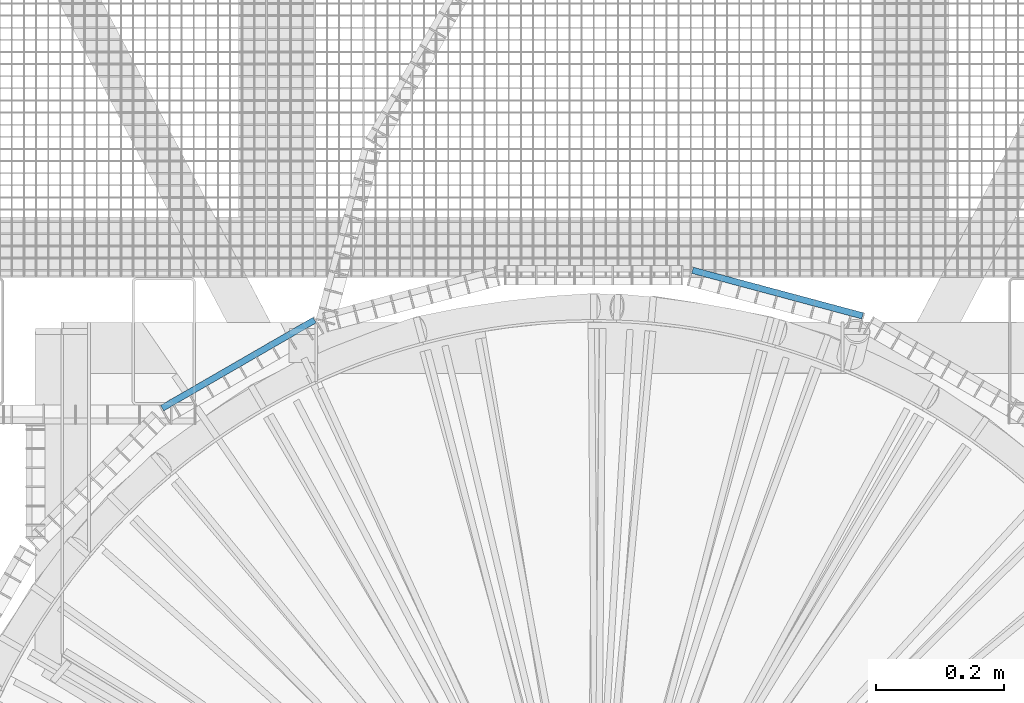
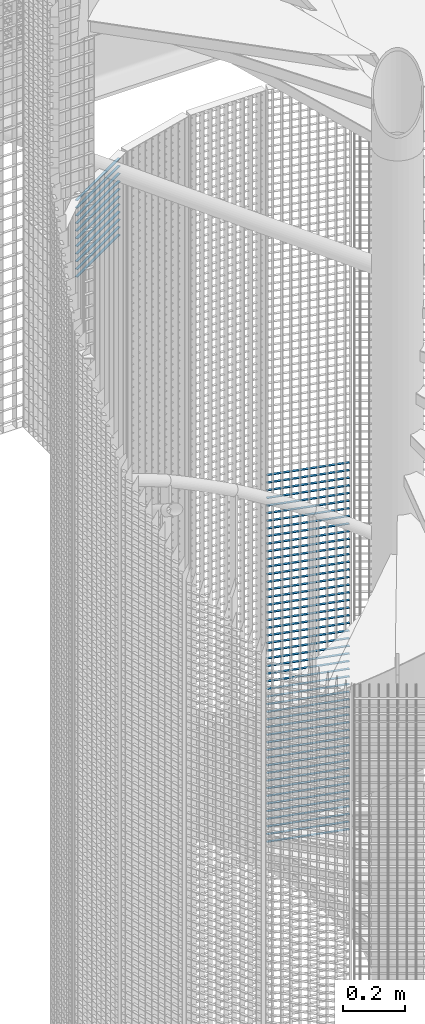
# One storey, part 307 of 1148: 60 beams, 2 elements without a shape of their own.
"""IFC2X3 building model written with IfcOpenShell, lengths in millimetres."""

from ifc_helpers import new_model, si_unit, frame, origin_with_axes, origin_2d_with_axis, place, context, subcontext, project, spatial, rectangle, extrude, material, type_object, element, aggregate, save


model = new_model("IFC2X3")

# Units and contexts
model_context = context("Model", 3, precision=1e-05, world=origin_with_axes())
body_context = subcontext(model_context, "Body", "Model", "MODEL_VIEW")
ifc_project = project(units=[si_unit("LENGTHUNIT", "METRE", prefix="MILLI"), si_unit("AREAUNIT", "SQUARE_METRE"), si_unit("VOLUMEUNIT", "CUBIC_METRE"), si_unit("MASSUNIT", "GRAM", prefix="KILO"), si_unit("TIMEUNIT", "SECOND"), si_unit("PLANEANGLEUNIT", "RADIAN"), si_unit("SOLIDANGLEUNIT", "STERADIAN"), si_unit("THERMODYNAMICTEMPERATUREUNIT", "DEGREE_CELSIUS"), si_unit("LUMINOUSINTENSITYUNIT", "LUMEN")], contexts=[model_context])

# Site, building, storey
site_placement = place(None, origin_with_axes())
site = spatial("IfcSite", under=ifc_project, at=site_placement, Name="Undefined", CompositionType="ELEMENT")
building_placement = place(site_placement, origin_with_axes())
building = spatial("IfcBuilding", under=site, at=building_placement, Name="Undefined", CompositionType="ELEMENT")
storey_placement = place(building_placement, origin_with_axes())
storey = spatial("IfcBuildingStorey", under=building, at=storey_placement, Name="Undefined", CompositionType="ELEMENT", Elevation=0.0)

# Assembly, beams
assembly_1_placement = place(storey_placement, origin_with_axes())
assembly_1 = element("IfcElementAssembly", 1, at=assembly_1_placement, inside=storey, Name="BORDURE", AssemblyPlace="NOTDEFINED", PredefinedType="NOTDEFINED")
ifc_material = material(Name="STEEL/S235JR")
beam_type = type_object("IfcBeamType", Name="PL2*10", PredefinedType="NOTDEFINED")
beam_1_placement = place(assembly_1_placement, frame((421.483733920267, 1039.82309522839, 4470.0), z_axis=(0.258819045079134, 0.965925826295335, 0.0), x_axis=(-0.965925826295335, 0.258819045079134, 0.0)))
beam_1 = element("IfcBeam", 2, at=beam_1_placement, type_object=beam_type, material=ifc_material, Name="ENTRETOISE", context=body_context, shape_type="SweptSolid", body=[
    extrude(rectangle(XDim=2.0, YDim=10.0, at=origin_2d_with_axis()), frame((275.999999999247, 9.09494701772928e-13, 1.53210777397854e-14), z_axis=(-1.0, 0.0, 0.0), x_axis=(0.0, -1.0, 0.0)), (0.0, 0.0, 1.0), 276.0),
])
beam_2_placement = place(assembly_1_placement, frame((421.483733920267, 1039.82309522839, 4440.0), z_axis=(0.258819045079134, 0.965925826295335, 0.0), x_axis=(-0.965925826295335, 0.258819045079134, 0.0)))
beam_2 = element("IfcBeam", 3, at=beam_2_placement, type_object=beam_type, material=ifc_material, Name="ENTRETOISE", context=body_context, shape_type="SweptSolid", body=[
    extrude(rectangle(XDim=2.0, YDim=10.0, at=origin_2d_with_axis()), frame((275.999999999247, 9.09494701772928e-13, 1.53210777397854e-14), z_axis=(-1.0, 0.0, 0.0), x_axis=(0.0, -1.0, 0.0)), (0.0, 0.0, 1.0), 276.0),
])
beam_3_placement = place(assembly_1_placement, frame((421.483733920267, 1039.82309522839, 4410.0), z_axis=(0.258819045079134, 0.965925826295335, 0.0), x_axis=(-0.965925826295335, 0.258819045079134, 0.0)))
beam_3 = element("IfcBeam", 4, at=beam_3_placement, type_object=beam_type, material=ifc_material, Name="ENTRETOISE", context=body_context, shape_type="SweptSolid", body=[
    extrude(rectangle(XDim=2.0, YDim=10.0, at=origin_2d_with_axis()), frame((275.999999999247, 9.09494701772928e-13, 1.53210777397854e-14), z_axis=(-1.0, 0.0, 0.0), x_axis=(0.0, -1.0, 0.0)), (0.0, 0.0, 1.0), 276.0),
])
beam_4_placement = place(assembly_1_placement, frame((421.483733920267, 1039.82309522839, 4380.0), z_axis=(0.258819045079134, 0.965925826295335, 0.0), x_axis=(-0.965925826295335, 0.258819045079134, 0.0)))
beam_4 = element("IfcBeam", 5, at=beam_4_placement, type_object=beam_type, material=ifc_material, Name="ENTRETOISE", context=body_context, shape_type="SweptSolid", body=[
    extrude(rectangle(XDim=2.0, YDim=10.0, at=origin_2d_with_axis()), frame((275.999999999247, 9.09494701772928e-13, 1.53210777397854e-14), z_axis=(-1.0, 0.0, 0.0), x_axis=(0.0, -1.0, 0.0)), (0.0, 0.0, 1.0), 276.0),
])
beam_5_placement = place(assembly_1_placement, frame((421.483733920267, 1039.82309522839, 4350.0), z_axis=(0.258819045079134, 0.965925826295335, 0.0), x_axis=(-0.965925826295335, 0.258819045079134, 0.0)))
beam_5 = element("IfcBeam", 6, at=beam_5_placement, type_object=beam_type, material=ifc_material, Name="ENTRETOISE", context=body_context, shape_type="SweptSolid", body=[
    extrude(rectangle(XDim=2.0, YDim=10.0, at=origin_2d_with_axis()), frame((275.999999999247, 9.09494701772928e-13, 1.53210777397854e-14), z_axis=(-1.0, 0.0, 0.0), x_axis=(0.0, -1.0, 0.0)), (0.0, 0.0, 1.0), 276.0),
])
beam_6_placement = place(assembly_1_placement, frame((421.483733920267, 1039.82309522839, 4320.0), z_axis=(0.258819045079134, 0.965925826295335, 0.0), x_axis=(-0.965925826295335, 0.258819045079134, 0.0)))
beam_6 = element("IfcBeam", 7, at=beam_6_placement, type_object=beam_type, material=ifc_material, Name="ENTRETOISE", context=body_context, shape_type="SweptSolid", body=[
    extrude(rectangle(XDim=2.0, YDim=10.0, at=origin_2d_with_axis()), frame((275.999999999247, 9.09494701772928e-13, 1.53210777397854e-14), z_axis=(-1.0, 0.0, 0.0), x_axis=(0.0, -1.0, 0.0)), (0.0, 0.0, 1.0), 276.0),
])
beam_7_placement = place(assembly_1_placement, frame((421.483733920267, 1039.82309522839, 4290.0), z_axis=(0.258819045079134, 0.965925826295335, 0.0), x_axis=(-0.965925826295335, 0.258819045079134, 0.0)))
beam_7 = element("IfcBeam", 8, at=beam_7_placement, type_object=beam_type, material=ifc_material, Name="ENTRETOISE", context=body_context, shape_type="SweptSolid", body=[
    extrude(rectangle(XDim=2.0, YDim=10.0, at=origin_2d_with_axis()), frame((275.999999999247, 9.09494701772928e-13, 1.53210777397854e-14), z_axis=(-1.0, 0.0, 0.0), x_axis=(0.0, -1.0, 0.0)), (0.0, 0.0, 1.0), 276.0),
])
beam_8_placement = place(assembly_1_placement, frame((421.483733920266, 1039.82309522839, 4260.0), z_axis=(0.258819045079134, 0.965925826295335, 0.0), x_axis=(-0.965925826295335, 0.258819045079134, 0.0)))
beam_8 = element("IfcBeam", 9, at=beam_8_placement, type_object=beam_type, material=ifc_material, Name="ENTRETOISE", context=body_context, shape_type="SweptSolid", body=[
    extrude(rectangle(XDim=2.0, YDim=10.0, at=origin_2d_with_axis()), frame((275.999999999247, 9.09494701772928e-13, 1.53210777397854e-14), z_axis=(-1.0, 0.0, 0.0), x_axis=(0.0, -1.0, 0.0)), (0.0, 0.0, 1.0), 276.0),
])
beam_9_placement = place(assembly_1_placement, frame((421.483733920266, 1039.82309522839, 4230.0), z_axis=(0.258819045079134, 0.965925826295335, 0.0), x_axis=(-0.965925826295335, 0.258819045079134, 0.0)))
beam_9 = element("IfcBeam", 10, at=beam_9_placement, type_object=beam_type, material=ifc_material, Name="ENTRETOISE", context=body_context, shape_type="SweptSolid", body=[
    extrude(rectangle(XDim=2.0, YDim=10.0, at=origin_2d_with_axis()), frame((275.999999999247, 9.09494701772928e-13, 1.53210777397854e-14), z_axis=(-1.0, 0.0, 0.0), x_axis=(0.0, -1.0, 0.0)), (0.0, 0.0, 1.0), 276.0),
])
beam_10_placement = place(assembly_1_placement, frame((421.483733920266, 1039.82309522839, 4200.0), z_axis=(0.258819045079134, 0.965925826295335, 0.0), x_axis=(-0.965925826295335, 0.258819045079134, 0.0)))
beam_10 = element("IfcBeam", 11, at=beam_10_placement, type_object=beam_type, material=ifc_material, Name="ENTRETOISE", context=body_context, shape_type="SweptSolid", body=[
    extrude(rectangle(XDim=2.0, YDim=10.0, at=origin_2d_with_axis()), frame((275.999999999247, 9.09494701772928e-13, 1.53210777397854e-14), z_axis=(-1.0, 0.0, 0.0), x_axis=(0.0, -1.0, 0.0)), (0.0, 0.0, 1.0), 276.0),
])
beam_11_placement = place(assembly_1_placement, frame((421.483733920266, 1039.82309522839, 4170.0), z_axis=(0.258819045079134, 0.965925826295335, 0.0), x_axis=(-0.965925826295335, 0.258819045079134, 0.0)))
beam_11 = element("IfcBeam", 12, at=beam_11_placement, type_object=beam_type, material=ifc_material, Name="ENTRETOISE", context=body_context, shape_type="SweptSolid", body=[
    extrude(rectangle(XDim=2.0, YDim=10.0, at=origin_2d_with_axis()), frame((275.999999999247, 9.09494701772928e-13, 1.53210777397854e-14), z_axis=(-1.0, 0.0, 0.0), x_axis=(0.0, -1.0, 0.0)), (0.0, 0.0, 1.0), 276.0),
])
beam_12_placement = place(assembly_1_placement, frame((421.483733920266, 1039.82309522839, 4140.0), z_axis=(0.258819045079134, 0.965925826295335, 0.0), x_axis=(-0.965925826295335, 0.258819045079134, 0.0)))
beam_12 = element("IfcBeam", 13, at=beam_12_placement, type_object=beam_type, material=ifc_material, Name="ENTRETOISE", context=body_context, shape_type="SweptSolid", body=[
    extrude(rectangle(XDim=2.0, YDim=10.0, at=origin_2d_with_axis()), frame((275.999999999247, 9.09494701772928e-13, 1.53210777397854e-14), z_axis=(-1.0, 0.0, 0.0), x_axis=(0.0, -1.0, 0.0)), (0.0, 0.0, 1.0), 276.0),
])
beam_13_placement = place(assembly_1_placement, frame((421.483733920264, 1039.82309522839, 3720.0), z_axis=(0.258819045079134, 0.965925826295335, 0.0), x_axis=(-0.965925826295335, 0.258819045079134, 0.0)))
beam_13 = element("IfcBeam", 14, at=beam_13_placement, type_object=beam_type, material=ifc_material, Name="ENTRETOISE", context=body_context, shape_type="SweptSolid", body=[
    extrude(rectangle(XDim=2.0, YDim=10.0, at=origin_2d_with_axis()), frame((275.999999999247, 9.09494701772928e-13, 1.53210777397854e-14), z_axis=(-1.0, 0.0, 0.0), x_axis=(0.0, -1.0, 0.0)), (0.0, 0.0, 1.0), 276.0),
])
beam_14_placement = place(assembly_1_placement, frame((421.483733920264, 1039.82309522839, 3690.0), z_axis=(0.258819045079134, 0.965925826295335, 0.0), x_axis=(-0.965925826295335, 0.258819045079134, 0.0)))
beam_14 = element("IfcBeam", 15, at=beam_14_placement, type_object=beam_type, material=ifc_material, Name="ENTRETOISE", context=body_context, shape_type="SweptSolid", body=[
    extrude(rectangle(XDim=2.0, YDim=10.0, at=origin_2d_with_axis()), frame((275.999999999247, 9.09494701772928e-13, 1.53210777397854e-14), z_axis=(-1.0, 0.0, 0.0), x_axis=(0.0, -1.0, 0.0)), (0.0, 0.0, 1.0), 276.0),
])
beam_15_placement = place(assembly_1_placement, frame((421.483733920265, 1039.82309522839, 3750.0), z_axis=(0.258819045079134, 0.965925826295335, 0.0), x_axis=(-0.965925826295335, 0.258819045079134, 0.0)))
beam_15 = element("IfcBeam", 16, at=beam_15_placement, type_object=beam_type, material=ifc_material, Name="ENTRETOISE", context=body_context, shape_type="SweptSolid", body=[
    extrude(rectangle(XDim=2.0, YDim=10.0, at=origin_2d_with_axis()), frame((275.999999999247, 9.09494701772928e-13, 1.53210777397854e-14), z_axis=(-1.0, 0.0, 0.0), x_axis=(0.0, -1.0, 0.0)), (0.0, 0.0, 1.0), 276.0),
])
beam_16_placement = place(assembly_1_placement, frame((421.483733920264, 1039.82309522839, 3660.0), z_axis=(0.258819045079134, 0.965925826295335, 0.0), x_axis=(-0.965925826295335, 0.258819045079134, 0.0)))
beam_16 = element("IfcBeam", 17, at=beam_16_placement, type_object=beam_type, material=ifc_material, Name="ENTRETOISE", context=body_context, shape_type="SweptSolid", body=[
    extrude(rectangle(XDim=2.0, YDim=10.0, at=origin_2d_with_axis()), frame((275.999999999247, 9.09494701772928e-13, 1.53210777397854e-14), z_axis=(-1.0, 0.0, 0.0), x_axis=(0.0, -1.0, 0.0)), (0.0, 0.0, 1.0), 276.0),
])
beam_17_placement = place(assembly_1_placement, frame((421.483733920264, 1039.82309522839, 3630.0), z_axis=(0.258819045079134, 0.965925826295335, 0.0), x_axis=(-0.965925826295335, 0.258819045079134, 0.0)))
beam_17 = element("IfcBeam", 18, at=beam_17_placement, type_object=beam_type, material=ifc_material, Name="ENTRETOISE", context=body_context, shape_type="SweptSolid", body=[
    extrude(rectangle(XDim=2.0, YDim=10.0, at=origin_2d_with_axis()), frame((275.999999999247, 9.09494701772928e-13, 1.53210777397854e-14), z_axis=(-1.0, 0.0, 0.0), x_axis=(0.0, -1.0, 0.0)), (0.0, 0.0, 1.0), 276.0),
])
beam_18_placement = place(assembly_1_placement, frame((421.483733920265, 1039.82309522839, 3780.0), z_axis=(0.258819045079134, 0.965925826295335, 0.0), x_axis=(-0.965925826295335, 0.258819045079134, 0.0)))
beam_18 = element("IfcBeam", 19, at=beam_18_placement, type_object=beam_type, material=ifc_material, Name="ENTRETOISE", context=body_context, shape_type="SweptSolid", body=[
    extrude(rectangle(XDim=2.0, YDim=10.0, at=origin_2d_with_axis()), frame((275.999999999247, 9.09494701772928e-13, 1.53210777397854e-14), z_axis=(-1.0, 0.0, 0.0), x_axis=(0.0, -1.0, 0.0)), (0.0, 0.0, 1.0), 276.0),
])
beam_19_placement = place(assembly_1_placement, frame((421.483733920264, 1039.82309522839, 3600.0), z_axis=(0.258819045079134, 0.965925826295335, 0.0), x_axis=(-0.965925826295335, 0.258819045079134, 0.0)))
beam_19 = element("IfcBeam", 20, at=beam_19_placement, type_object=beam_type, material=ifc_material, Name="ENTRETOISE", context=body_context, shape_type="SweptSolid", body=[
    extrude(rectangle(XDim=2.0, YDim=10.0, at=origin_2d_with_axis()), frame((275.999999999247, 9.09494701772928e-13, 1.53210777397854e-14), z_axis=(-1.0, 0.0, 0.0), x_axis=(0.0, -1.0, 0.0)), (0.0, 0.0, 1.0), 276.0),
])
beam_20_placement = place(assembly_1_placement, frame((421.483733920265, 1039.82309522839, 3810.0), z_axis=(0.258819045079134, 0.965925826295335, 0.0), x_axis=(-0.965925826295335, 0.258819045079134, 0.0)))
beam_20 = element("IfcBeam", 21, at=beam_20_placement, type_object=beam_type, material=ifc_material, Name="ENTRETOISE", context=body_context, shape_type="SweptSolid", body=[
    extrude(rectangle(XDim=2.0, YDim=10.0, at=origin_2d_with_axis()), frame((275.999999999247, 9.09494701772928e-13, 1.53210777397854e-14), z_axis=(-1.0, 0.0, 0.0), x_axis=(0.0, -1.0, 0.0)), (0.0, 0.0, 1.0), 276.0),
])
beam_21_placement = place(assembly_1_placement, frame((421.483733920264, 1039.82309522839, 3570.0), z_axis=(0.258819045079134, 0.965925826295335, 0.0), x_axis=(-0.965925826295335, 0.258819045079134, 0.0)))
beam_21 = element("IfcBeam", 22, at=beam_21_placement, type_object=beam_type, material=ifc_material, Name="ENTRETOISE", context=body_context, shape_type="SweptSolid", body=[
    extrude(rectangle(XDim=2.0, YDim=10.0, at=origin_2d_with_axis()), frame((275.999999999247, 9.09494701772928e-13, 1.53210777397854e-14), z_axis=(-1.0, 0.0, 0.0), x_axis=(0.0, -1.0, 0.0)), (0.0, 0.0, 1.0), 276.0),
])
beam_22_placement = place(assembly_1_placement, frame((421.483733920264, 1039.82309522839, 3540.0), z_axis=(0.258819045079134, 0.965925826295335, 0.0), x_axis=(-0.965925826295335, 0.258819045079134, 0.0)))
beam_22 = element("IfcBeam", 23, at=beam_22_placement, type_object=beam_type, material=ifc_material, Name="ENTRETOISE", context=body_context, shape_type="SweptSolid", body=[
    extrude(rectangle(XDim=2.0, YDim=10.0, at=origin_2d_with_axis()), frame((275.999999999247, 9.09494701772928e-13, 1.53210777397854e-14), z_axis=(-1.0, 0.0, 0.0), x_axis=(0.0, -1.0, 0.0)), (0.0, 0.0, 1.0), 276.0),
])
beam_23_placement = place(assembly_1_placement, frame((421.483733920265, 1039.82309522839, 3840.0), z_axis=(0.258819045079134, 0.965925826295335, 0.0), x_axis=(-0.965925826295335, 0.258819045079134, 0.0)))
beam_23 = element("IfcBeam", 24, at=beam_23_placement, type_object=beam_type, material=ifc_material, Name="ENTRETOISE", context=body_context, shape_type="SweptSolid", body=[
    extrude(rectangle(XDim=2.0, YDim=10.0, at=origin_2d_with_axis()), frame((275.999999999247, 9.09494701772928e-13, 1.53210777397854e-14), z_axis=(-1.0, 0.0, 0.0), x_axis=(0.0, -1.0, 0.0)), (0.0, 0.0, 1.0), 276.0),
])
beam_24_placement = place(assembly_1_placement, frame((421.483733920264, 1039.82309522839, 3510.0), z_axis=(0.258819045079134, 0.965925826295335, 0.0), x_axis=(-0.965925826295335, 0.258819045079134, 0.0)))
beam_24 = element("IfcBeam", 25, at=beam_24_placement, type_object=beam_type, material=ifc_material, Name="ENTRETOISE", context=body_context, shape_type="SweptSolid", body=[
    extrude(rectangle(XDim=2.0, YDim=10.0, at=origin_2d_with_axis()), frame((275.999999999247, 9.09494701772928e-13, 1.53210777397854e-14), z_axis=(-1.0, 0.0, 0.0), x_axis=(0.0, -1.0, 0.0)), (0.0, 0.0, 1.0), 276.0),
])
beam_25_placement = place(assembly_1_placement, frame((421.483733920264, 1039.82309522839, 3480.0), z_axis=(0.258819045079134, 0.965925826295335, 0.0), x_axis=(-0.965925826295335, 0.258819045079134, 0.0)))
beam_25 = element("IfcBeam", 26, at=beam_25_placement, type_object=beam_type, material=ifc_material, Name="ENTRETOISE", context=body_context, shape_type="SweptSolid", body=[
    extrude(rectangle(XDim=2.0, YDim=10.0, at=origin_2d_with_axis()), frame((275.999999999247, 9.09494701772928e-13, 1.53210777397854e-14), z_axis=(-1.0, 0.0, 0.0), x_axis=(0.0, -1.0, 0.0)), (0.0, 0.0, 1.0), 276.0),
])
beam_26_placement = place(assembly_1_placement, frame((421.483733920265, 1039.82309522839, 3870.0), z_axis=(0.258819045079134, 0.965925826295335, 0.0), x_axis=(-0.965925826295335, 0.258819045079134, 0.0)))
beam_26 = element("IfcBeam", 27, at=beam_26_placement, type_object=beam_type, material=ifc_material, Name="ENTRETOISE", context=body_context, shape_type="SweptSolid", body=[
    extrude(rectangle(XDim=2.0, YDim=10.0, at=origin_2d_with_axis()), frame((275.999999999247, 9.09494701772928e-13, 1.53210777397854e-14), z_axis=(-1.0, 0.0, 0.0), x_axis=(0.0, -1.0, 0.0)), (0.0, 0.0, 1.0), 276.0),
])
beam_27_placement = place(assembly_1_placement, frame((421.483733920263, 1039.82309522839, 3450.0), z_axis=(0.258819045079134, 0.965925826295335, 0.0), x_axis=(-0.965925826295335, 0.258819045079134, 0.0)))
beam_27 = element("IfcBeam", 28, at=beam_27_placement, type_object=beam_type, material=ifc_material, Name="ENTRETOISE", context=body_context, shape_type="SweptSolid", body=[
    extrude(rectangle(XDim=2.0, YDim=10.0, at=origin_2d_with_axis()), frame((275.999999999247, 9.09494701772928e-13, 1.53210777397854e-14), z_axis=(-1.0, 0.0, 0.0), x_axis=(0.0, -1.0, 0.0)), (0.0, 0.0, 1.0), 276.0),
])
beam_28_placement = place(assembly_1_placement, frame((421.483733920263, 1039.82309522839, 3420.0), z_axis=(0.258819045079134, 0.965925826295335, 0.0), x_axis=(-0.965925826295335, 0.258819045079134, 0.0)))
beam_28 = element("IfcBeam", 29, at=beam_28_placement, type_object=beam_type, material=ifc_material, Name="ENTRETOISE", context=body_context, shape_type="SweptSolid", body=[
    extrude(rectangle(XDim=2.0, YDim=10.0, at=origin_2d_with_axis()), frame((275.999999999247, 9.09494701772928e-13, 1.53210777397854e-14), z_axis=(-1.0, 0.0, 0.0), x_axis=(0.0, -1.0, 0.0)), (0.0, 0.0, 1.0), 276.0),
])
beam_29_placement = place(assembly_1_placement, frame((421.483733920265, 1039.82309522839, 3900.0), z_axis=(0.258819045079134, 0.965925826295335, 0.0), x_axis=(-0.965925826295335, 0.258819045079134, 0.0)))
beam_29 = element("IfcBeam", 30, at=beam_29_placement, type_object=beam_type, material=ifc_material, Name="ENTRETOISE", context=body_context, shape_type="SweptSolid", body=[
    extrude(rectangle(XDim=2.0, YDim=10.0, at=origin_2d_with_axis()), frame((275.999999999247, 9.09494701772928e-13, 1.53210777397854e-14), z_axis=(-1.0, 0.0, 0.0), x_axis=(0.0, -1.0, 0.0)), (0.0, 0.0, 1.0), 276.0),
])
beam_30_placement = place(assembly_1_placement, frame((421.483733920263, 1039.82309522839, 3390.0), z_axis=(0.258819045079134, 0.965925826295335, 0.0), x_axis=(-0.965925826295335, 0.258819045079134, 0.0)))
beam_30 = element("IfcBeam", 31, at=beam_30_placement, type_object=beam_type, material=ifc_material, Name="ENTRETOISE", context=body_context, shape_type="SweptSolid", body=[
    extrude(rectangle(XDim=2.0, YDim=10.0, at=origin_2d_with_axis()), frame((275.999999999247, 9.09494701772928e-13, 1.53210777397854e-14), z_axis=(-1.0, 0.0, 0.0), x_axis=(0.0, -1.0, 0.0)), (0.0, 0.0, 1.0), 276.0),
])
beam_31_placement = place(assembly_1_placement, frame((421.483733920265, 1039.82309522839, 3930.0), z_axis=(0.258819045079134, 0.965925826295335, 0.0), x_axis=(-0.965925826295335, 0.258819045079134, 0.0)))
beam_31 = element("IfcBeam", 32, at=beam_31_placement, type_object=beam_type, material=ifc_material, Name="ENTRETOISE", context=body_context, shape_type="SweptSolid", body=[
    extrude(rectangle(XDim=2.0, YDim=10.0, at=origin_2d_with_axis()), frame((275.999999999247, 9.09494701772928e-13, 1.53210777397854e-14), z_axis=(-1.0, 0.0, 0.0), x_axis=(0.0, -1.0, 0.0)), (0.0, 0.0, 1.0), 276.0),
])
beam_32_placement = place(assembly_1_placement, frame((421.483733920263, 1039.82309522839, 3360.0), z_axis=(0.258819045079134, 0.965925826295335, 0.0), x_axis=(-0.965925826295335, 0.258819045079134, 0.0)))
beam_32 = element("IfcBeam", 33, at=beam_32_placement, type_object=beam_type, material=ifc_material, Name="ENTRETOISE", context=body_context, shape_type="SweptSolid", body=[
    extrude(rectangle(XDim=2.0, YDim=10.0, at=origin_2d_with_axis()), frame((275.999999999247, 9.09494701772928e-13, 1.53210777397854e-14), z_axis=(-1.0, 0.0, 0.0), x_axis=(0.0, -1.0, 0.0)), (0.0, 0.0, 1.0), 276.0),
])
beam_33_placement = place(assembly_1_placement, frame((421.483733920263, 1039.82309522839, 3330.0), z_axis=(0.258819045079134, 0.965925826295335, 0.0), x_axis=(-0.965925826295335, 0.258819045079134, 0.0)))
beam_33 = element("IfcBeam", 34, at=beam_33_placement, type_object=beam_type, material=ifc_material, Name="ENTRETOISE", context=body_context, shape_type="SweptSolid", body=[
    extrude(rectangle(XDim=2.0, YDim=10.0, at=origin_2d_with_axis()), frame((275.999999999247, 9.09494701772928e-13, 1.53210777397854e-14), z_axis=(-1.0, 0.0, 0.0), x_axis=(0.0, -1.0, 0.0)), (0.0, 0.0, 1.0), 276.0),
])
beam_34_placement = place(assembly_1_placement, frame((421.483733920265, 1039.82309522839, 3960.0), z_axis=(0.258819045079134, 0.965925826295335, 0.0), x_axis=(-0.965925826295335, 0.258819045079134, 0.0)))
beam_34 = element("IfcBeam", 35, at=beam_34_placement, type_object=beam_type, material=ifc_material, Name="ENTRETOISE", context=body_context, shape_type="SweptSolid", body=[
    extrude(rectangle(XDim=2.0, YDim=10.0, at=origin_2d_with_axis()), frame((275.999999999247, 9.09494701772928e-13, 1.53210777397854e-14), z_axis=(-1.0, 0.0, 0.0), x_axis=(0.0, -1.0, 0.0)), (0.0, 0.0, 1.0), 276.0),
])
beam_35_placement = place(assembly_1_placement, frame((421.483733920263, 1039.82309522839, 3300.0), z_axis=(0.258819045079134, 0.965925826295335, 0.0), x_axis=(-0.965925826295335, 0.258819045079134, 0.0)))
beam_35 = element("IfcBeam", 36, at=beam_35_placement, type_object=beam_type, material=ifc_material, Name="ENTRETOISE", context=body_context, shape_type="SweptSolid", body=[
    extrude(rectangle(XDim=2.0, YDim=10.0, at=origin_2d_with_axis()), frame((275.999999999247, 9.09494701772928e-13, 1.53210777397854e-14), z_axis=(-1.0, 0.0, 0.0), x_axis=(0.0, -1.0, 0.0)), (0.0, 0.0, 1.0), 276.0),
])
beam_36_placement = place(assembly_1_placement, frame((421.483733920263, 1039.82309522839, 3270.0), z_axis=(0.258819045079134, 0.965925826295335, 0.0), x_axis=(-0.965925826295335, 0.258819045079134, 0.0)))
beam_36 = element("IfcBeam", 37, at=beam_36_placement, type_object=beam_type, material=ifc_material, Name="ENTRETOISE", context=body_context, shape_type="SweptSolid", body=[
    extrude(rectangle(XDim=2.0, YDim=10.0, at=origin_2d_with_axis()), frame((275.999999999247, 9.09494701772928e-13, 1.53210777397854e-14), z_axis=(-1.0, 0.0, 0.0), x_axis=(0.0, -1.0, 0.0)), (0.0, 0.0, 1.0), 276.0),
])
beam_37_placement = place(assembly_1_placement, frame((421.483733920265, 1039.82309522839, 3990.0), z_axis=(0.258819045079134, 0.965925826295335, 0.0), x_axis=(-0.965925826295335, 0.258819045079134, 0.0)))
beam_37 = element("IfcBeam", 38, at=beam_37_placement, type_object=beam_type, material=ifc_material, Name="ENTRETOISE", context=body_context, shape_type="SweptSolid", body=[
    extrude(rectangle(XDim=2.0, YDim=10.0, at=origin_2d_with_axis()), frame((275.999999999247, 9.09494701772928e-13, 1.53210777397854e-14), z_axis=(-1.0, 0.0, 0.0), x_axis=(0.0, -1.0, 0.0)), (0.0, 0.0, 1.0), 276.0),
])
beam_38_placement = place(assembly_1_placement, frame((421.483733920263, 1039.82309522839, 3240.0), z_axis=(0.258819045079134, 0.965925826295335, 0.0), x_axis=(-0.965925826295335, 0.258819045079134, 0.0)))
beam_38 = element("IfcBeam", 39, at=beam_38_placement, type_object=beam_type, material=ifc_material, Name="ENTRETOISE", context=body_context, shape_type="SweptSolid", body=[
    extrude(rectangle(XDim=2.0, YDim=10.0, at=origin_2d_with_axis()), frame((275.999999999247, 9.09494701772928e-13, 1.53210777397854e-14), z_axis=(-1.0, 0.0, 0.0), x_axis=(0.0, -1.0, 0.0)), (0.0, 0.0, 1.0), 276.0),
])
beam_39_placement = place(assembly_1_placement, frame((421.483733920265, 1039.82309522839, 4020.0), z_axis=(0.258819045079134, 0.965925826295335, 0.0), x_axis=(-0.965925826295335, 0.258819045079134, 0.0)))
beam_39 = element("IfcBeam", 40, at=beam_39_placement, type_object=beam_type, material=ifc_material, Name="ENTRETOISE", context=body_context, shape_type="SweptSolid", body=[
    extrude(rectangle(XDim=2.0, YDim=10.0, at=origin_2d_with_axis()), frame((275.999999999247, 9.09494701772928e-13, 1.53210777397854e-14), z_axis=(-1.0, 0.0, 0.0), x_axis=(0.0, -1.0, 0.0)), (0.0, 0.0, 1.0), 276.0),
])
beam_40_placement = place(assembly_1_placement, frame((421.483733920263, 1039.82309522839, 3210.0), z_axis=(0.258819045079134, 0.965925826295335, 0.0), x_axis=(-0.965925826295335, 0.258819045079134, 0.0)))
beam_40 = element("IfcBeam", 41, at=beam_40_placement, type_object=beam_type, material=ifc_material, Name="ENTRETOISE", context=body_context, shape_type="SweptSolid", body=[
    extrude(rectangle(XDim=2.0, YDim=10.0, at=origin_2d_with_axis()), frame((275.999999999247, 9.09494701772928e-13, 1.53210777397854e-14), z_axis=(-1.0, 0.0, 0.0), x_axis=(0.0, -1.0, 0.0)), (0.0, 0.0, 1.0), 276.0),
])
beam_41_placement = place(assembly_1_placement, frame((421.483733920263, 1039.82309522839, 3180.0), z_axis=(0.258819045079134, 0.965925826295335, 0.0), x_axis=(-0.965925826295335, 0.258819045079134, 0.0)))
beam_41 = element("IfcBeam", 42, at=beam_41_placement, type_object=beam_type, material=ifc_material, Name="ENTRETOISE", context=body_context, shape_type="SweptSolid", body=[
    extrude(rectangle(XDim=2.0, YDim=10.0, at=origin_2d_with_axis()), frame((275.999999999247, 9.09494701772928e-13, 1.53210777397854e-14), z_axis=(-1.0, 0.0, 0.0), x_axis=(0.0, -1.0, 0.0)), (0.0, 0.0, 1.0), 276.0),
])
beam_42_placement = place(assembly_1_placement, frame((421.483733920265, 1039.82309522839, 4050.0), z_axis=(0.258819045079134, 0.965925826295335, 0.0), x_axis=(-0.965925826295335, 0.258819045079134, 0.0)))
beam_42 = element("IfcBeam", 43, at=beam_42_placement, type_object=beam_type, material=ifc_material, Name="ENTRETOISE", context=body_context, shape_type="SweptSolid", body=[
    extrude(rectangle(XDim=2.0, YDim=10.0, at=origin_2d_with_axis()), frame((275.999999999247, 9.09494701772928e-13, 1.53210777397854e-14), z_axis=(-1.0, 0.0, 0.0), x_axis=(0.0, -1.0, 0.0)), (0.0, 0.0, 1.0), 276.0),
])
beam_43_placement = place(assembly_1_placement, frame((421.483733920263, 1039.82309522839, 3150.0), z_axis=(0.258819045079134, 0.965925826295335, 0.0), x_axis=(-0.965925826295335, 0.258819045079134, 0.0)))
beam_43 = element("IfcBeam", 44, at=beam_43_placement, type_object=beam_type, material=ifc_material, Name="ENTRETOISE", context=body_context, shape_type="SweptSolid", body=[
    extrude(rectangle(XDim=2.0, YDim=10.0, at=origin_2d_with_axis()), frame((275.999999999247, 9.09494701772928e-13, 1.53210777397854e-14), z_axis=(-1.0, 0.0, 0.0), x_axis=(0.0, -1.0, 0.0)), (0.0, 0.0, 1.0), 276.0),
])
beam_44_placement = place(assembly_1_placement, frame((421.483733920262, 1039.82309522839, 3120.0), z_axis=(0.258819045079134, 0.965925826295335, 0.0), x_axis=(-0.965925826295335, 0.258819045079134, 0.0)))
beam_44 = element("IfcBeam", 45, at=beam_44_placement, type_object=beam_type, material=ifc_material, Name="ENTRETOISE", context=body_context, shape_type="SweptSolid", body=[
    extrude(rectangle(XDim=2.0, YDim=10.0, at=origin_2d_with_axis()), frame((275.999999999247, 9.09494701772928e-13, 1.53210777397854e-14), z_axis=(-1.0, 0.0, 0.0), x_axis=(0.0, -1.0, 0.0)), (0.0, 0.0, 1.0), 276.0),
])
beam_45_placement = place(assembly_1_placement, frame((421.483733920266, 1039.82309522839, 4080.0), z_axis=(0.258819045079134, 0.965925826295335, 0.0), x_axis=(-0.965925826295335, 0.258819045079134, 0.0)))
beam_45 = element("IfcBeam", 46, at=beam_45_placement, type_object=beam_type, material=ifc_material, Name="ENTRETOISE", context=body_context, shape_type="SweptSolid", body=[
    extrude(rectangle(XDim=2.0, YDim=10.0, at=origin_2d_with_axis()), frame((275.999999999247, 9.09494701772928e-13, 1.53210777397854e-14), z_axis=(-1.0, 0.0, 0.0), x_axis=(0.0, -1.0, 0.0)), (0.0, 0.0, 1.0), 276.0),
])
beam_46_placement = place(assembly_1_placement, frame((421.483733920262, 1039.82309522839, 3090.0), z_axis=(0.258819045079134, 0.965925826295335, 0.0), x_axis=(-0.965925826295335, 0.258819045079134, 0.0)))
beam_46 = element("IfcBeam", 47, at=beam_46_placement, type_object=beam_type, material=ifc_material, Name="ENTRETOISE", context=body_context, shape_type="SweptSolid", body=[
    extrude(rectangle(XDim=2.0, YDim=10.0, at=origin_2d_with_axis()), frame((275.999999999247, 9.09494701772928e-13, 1.53210777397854e-14), z_axis=(-1.0, 0.0, 0.0), x_axis=(0.0, -1.0, 0.0)), (0.0, 0.0, 1.0), 276.0),
])
beam_47_placement = place(assembly_1_placement, frame((421.483733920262, 1039.82309522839, 3060.0), z_axis=(0.258819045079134, 0.965925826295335, 0.0), x_axis=(-0.965925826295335, 0.258819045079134, 0.0)))
beam_47 = element("IfcBeam", 48, at=beam_47_placement, type_object=beam_type, material=ifc_material, Name="ENTRETOISE", context=body_context, shape_type="SweptSolid", body=[
    extrude(rectangle(XDim=2.0, YDim=10.0, at=origin_2d_with_axis()), frame((275.999999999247, 9.09494701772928e-13, 1.53210777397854e-14), z_axis=(-1.0, 0.0, 0.0), x_axis=(0.0, -1.0, 0.0)), (0.0, 0.0, 1.0), 276.0),
])
beam_48_placement = place(assembly_1_placement, frame((421.483733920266, 1039.82309522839, 4110.0), z_axis=(0.258819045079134, 0.965925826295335, 0.0), x_axis=(-0.965925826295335, 0.258819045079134, 0.0)))
beam_48 = element("IfcBeam", 49, at=beam_48_placement, type_object=beam_type, material=ifc_material, Name="ENTRETOISE", context=body_context, shape_type="SweptSolid", body=[
    extrude(rectangle(XDim=2.0, YDim=10.0, at=origin_2d_with_axis()), frame((275.999999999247, 9.09494701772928e-13, 1.53210777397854e-14), z_axis=(-1.0, 0.0, 0.0), x_axis=(0.0, -1.0, 0.0)), (0.0, 0.0, 1.0), 276.0),
])
beam_49_placement = place(assembly_1_placement, frame((421.483733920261, 1039.82309522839, 3030.0), z_axis=(0.258819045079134, 0.965925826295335, 0.0), x_axis=(-0.965925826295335, 0.258819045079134, 0.0)))
beam_49 = element("IfcBeam", 50, at=beam_49_placement, type_object=beam_type, material=ifc_material, Name="ENTRETOISE", context=body_context, shape_type="SweptSolid", body=[
    extrude(rectangle(XDim=2.0, YDim=10.0, at=origin_2d_with_axis()), frame((275.999999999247, 9.09494701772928e-13, 1.53210777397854e-14), z_axis=(-1.0, 0.0, 0.0), x_axis=(0.0, -1.0, 0.0)), (0.0, 0.0, 1.0), 276.0),
])
aggregate(assembly_1, [beam_1, beam_2, beam_3, beam_4, beam_5, beam_6, beam_7, beam_8, beam_9, beam_10, beam_11, beam_12, beam_13, beam_14, beam_15, beam_16, beam_17, beam_18, beam_19, beam_20, beam_21, beam_22, beam_23, beam_24, beam_25, beam_26, beam_27, beam_28, beam_29, beam_30, beam_31, beam_32, beam_33, beam_34, beam_35, beam_36, beam_37, beam_38, beam_39, beam_40, beam_41, beam_42, beam_43, beam_44, beam_45, beam_46, beam_47, beam_48, beam_49])

assembly_2_placement = place(storey_placement, origin_with_axes())
assembly_2 = element("IfcElementAssembly", 51, at=assembly_2_placement, inside=storey, Name="BORDURE", AssemblyPlace="NOTDEFINED", PredefinedType="NOTDEFINED")
beam_50_placement = place(assembly_2_placement, frame((-437.231955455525, 1033.29996828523, 5970.0), z_axis=(-0.49999999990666, 0.866025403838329, 0.0), x_axis=(-0.866025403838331, -0.499999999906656, 0.0)))
beam_50 = element("IfcBeam", 52, at=beam_50_placement, type_object=beam_type, material=ifc_material, Name="ENTRETOISE", context=body_context, shape_type="SweptSolid", body=[
    extrude(rectangle(XDim=2.0, YDim=10.0, at=origin_2d_with_axis()), frame((275.999999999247, 9.09494701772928e-13, 1.53210777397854e-14), z_axis=(-1.0, 0.0, 0.0), x_axis=(0.0, -1.0, 0.0)), (0.0, 0.0, 1.0), 276.0),
])
beam_51_placement = place(assembly_2_placement, frame((-437.231955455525, 1033.29996828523, 5940.0), z_axis=(-0.49999999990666, 0.866025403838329, 0.0), x_axis=(-0.866025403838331, -0.499999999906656, 0.0)))
beam_51 = element("IfcBeam", 53, at=beam_51_placement, type_object=beam_type, material=ifc_material, Name="ENTRETOISE", context=body_context, shape_type="SweptSolid", body=[
    extrude(rectangle(XDim=2.0, YDim=10.0, at=origin_2d_with_axis()), frame((275.999999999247, 9.09494701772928e-13, 1.53210777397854e-14), z_axis=(-1.0, 0.0, 0.0), x_axis=(0.0, -1.0, 0.0)), (0.0, 0.0, 1.0), 276.0),
])
beam_52_placement = place(assembly_2_placement, frame((-437.231955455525, 1033.29996828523, 5910.0), z_axis=(-0.49999999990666, 0.866025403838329, 0.0), x_axis=(-0.866025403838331, -0.499999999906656, 0.0)))
beam_52 = element("IfcBeam", 54, at=beam_52_placement, type_object=beam_type, material=ifc_material, Name="ENTRETOISE", context=body_context, shape_type="SweptSolid", body=[
    extrude(rectangle(XDim=2.0, YDim=10.0, at=origin_2d_with_axis()), frame((275.999999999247, 9.09494701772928e-13, 1.53210777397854e-14), z_axis=(-1.0, 0.0, 0.0), x_axis=(0.0, -1.0, 0.0)), (0.0, 0.0, 1.0), 276.0),
])
beam_53_placement = place(assembly_2_placement, frame((-437.231955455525, 1033.29996828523, 5880.0), z_axis=(-0.49999999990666, 0.866025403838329, 0.0), x_axis=(-0.866025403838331, -0.499999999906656, 0.0)))
beam_53 = element("IfcBeam", 55, at=beam_53_placement, type_object=beam_type, material=ifc_material, Name="ENTRETOISE", context=body_context, shape_type="SweptSolid", body=[
    extrude(rectangle(XDim=2.0, YDim=10.0, at=origin_2d_with_axis()), frame((275.999999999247, 9.09494701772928e-13, 1.53210777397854e-14), z_axis=(-1.0, 0.0, 0.0), x_axis=(0.0, -1.0, 0.0)), (0.0, 0.0, 1.0), 276.0),
])
beam_54_placement = place(assembly_2_placement, frame((-437.231955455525, 1033.29996828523, 5850.0), z_axis=(-0.49999999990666, 0.866025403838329, 0.0), x_axis=(-0.866025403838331, -0.499999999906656, 0.0)))
beam_54 = element("IfcBeam", 56, at=beam_54_placement, type_object=beam_type, material=ifc_material, Name="ENTRETOISE", context=body_context, shape_type="SweptSolid", body=[
    extrude(rectangle(XDim=2.0, YDim=10.0, at=origin_2d_with_axis()), frame((275.999999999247, 9.09494701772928e-13, 1.53210777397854e-14), z_axis=(-1.0, 0.0, 0.0), x_axis=(0.0, -1.0, 0.0)), (0.0, 0.0, 1.0), 276.0),
])
beam_55_placement = place(assembly_2_placement, frame((-437.231955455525, 1033.29996828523, 5820.0), z_axis=(-0.49999999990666, 0.866025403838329, 0.0), x_axis=(-0.866025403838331, -0.499999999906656, 0.0)))
beam_55 = element("IfcBeam", 57, at=beam_55_placement, type_object=beam_type, material=ifc_material, Name="ENTRETOISE", context=body_context, shape_type="SweptSolid", body=[
    extrude(rectangle(XDim=2.0, YDim=10.0, at=origin_2d_with_axis()), frame((275.999999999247, 9.09494701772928e-13, 1.53210777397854e-14), z_axis=(-1.0, 0.0, 0.0), x_axis=(0.0, -1.0, 0.0)), (0.0, 0.0, 1.0), 276.0),
])
beam_56_placement = place(assembly_2_placement, frame((-437.231955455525, 1033.29996828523, 5790.0), z_axis=(-0.49999999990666, 0.866025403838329, 0.0), x_axis=(-0.866025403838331, -0.499999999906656, 0.0)))
beam_56 = element("IfcBeam", 58, at=beam_56_placement, type_object=beam_type, material=ifc_material, Name="ENTRETOISE", context=body_context, shape_type="SweptSolid", body=[
    extrude(rectangle(XDim=2.0, YDim=10.0, at=origin_2d_with_axis()), frame((275.999999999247, 9.09494701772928e-13, 1.53210777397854e-14), z_axis=(-1.0, 0.0, 0.0), x_axis=(0.0, -1.0, 0.0)), (0.0, 0.0, 1.0), 276.0),
])
beam_57_placement = place(assembly_2_placement, frame((-437.231955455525, 1033.29996828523, 5760.0), z_axis=(-0.49999999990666, 0.866025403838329, 0.0), x_axis=(-0.866025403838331, -0.499999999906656, 0.0)))
beam_57 = element("IfcBeam", 59, at=beam_57_placement, type_object=beam_type, material=ifc_material, Name="ENTRETOISE", context=body_context, shape_type="SweptSolid", body=[
    extrude(rectangle(XDim=2.0, YDim=10.0, at=origin_2d_with_axis()), frame((275.999999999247, 9.09494701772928e-13, 1.53210777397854e-14), z_axis=(-1.0, 0.0, 0.0), x_axis=(0.0, -1.0, 0.0)), (0.0, 0.0, 1.0), 276.0),
])
beam_58_placement = place(assembly_2_placement, frame((-437.231955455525, 1033.29996828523, 5730.0), z_axis=(-0.49999999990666, 0.866025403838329, 0.0), x_axis=(-0.866025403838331, -0.499999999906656, 0.0)))
beam_58 = element("IfcBeam", 60, at=beam_58_placement, type_object=beam_type, material=ifc_material, Name="ENTRETOISE", context=body_context, shape_type="SweptSolid", body=[
    extrude(rectangle(XDim=2.0, YDim=10.0, at=origin_2d_with_axis()), frame((275.999999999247, 9.09494701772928e-13, 1.53210777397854e-14), z_axis=(-1.0, 0.0, 0.0), x_axis=(0.0, -1.0, 0.0)), (0.0, 0.0, 1.0), 276.0),
])
beam_59_placement = place(assembly_2_placement, frame((-437.231955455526, 1033.29996828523, 5700.0), z_axis=(-0.49999999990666, 0.866025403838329, 0.0), x_axis=(-0.866025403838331, -0.499999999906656, 0.0)))
beam_59 = element("IfcBeam", 61, at=beam_59_placement, type_object=beam_type, material=ifc_material, Name="ENTRETOISE", context=body_context, shape_type="SweptSolid", body=[
    extrude(rectangle(XDim=2.0, YDim=10.0, at=origin_2d_with_axis()), frame((275.999999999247, 9.09494701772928e-13, 1.53210777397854e-14), z_axis=(-1.0, 0.0, 0.0), x_axis=(0.0, -1.0, 0.0)), (0.0, 0.0, 1.0), 276.0),
])
beam_60_placement = place(assembly_2_placement, frame((-437.231955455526, 1033.29996828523, 5670.0), z_axis=(-0.49999999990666, 0.866025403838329, 0.0), x_axis=(-0.866025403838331, -0.499999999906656, 0.0)))
beam_60 = element("IfcBeam", 62, at=beam_60_placement, type_object=beam_type, material=ifc_material, Name="ENTRETOISE", context=body_context, shape_type="SweptSolid", body=[
    extrude(rectangle(XDim=2.0, YDim=10.0, at=origin_2d_with_axis()), frame((275.999999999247, 9.09494701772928e-13, 1.53210777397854e-14), z_axis=(-1.0, 0.0, 0.0), x_axis=(0.0, -1.0, 0.0)), (0.0, 0.0, 1.0), 276.0),
])
aggregate(assembly_2, [beam_50, beam_51, beam_52, beam_53, beam_54, beam_55, beam_56, beam_57, beam_58, beam_59, beam_60])

save(model, "model.ifc")
